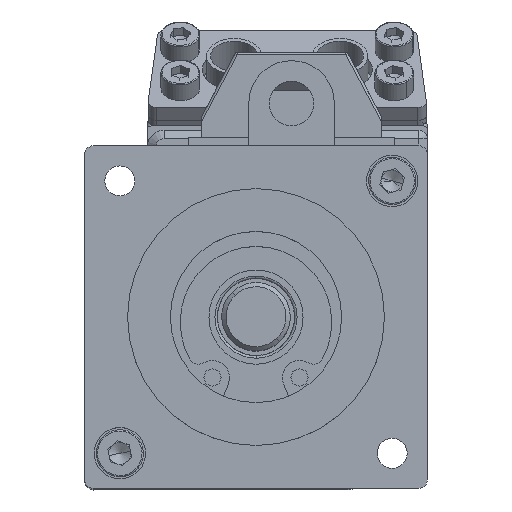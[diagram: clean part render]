
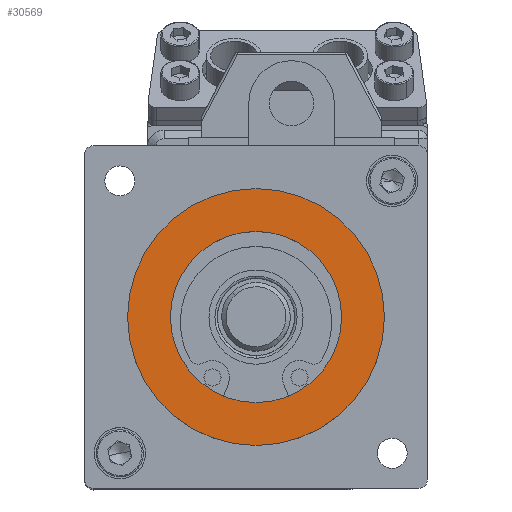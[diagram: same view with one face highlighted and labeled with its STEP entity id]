
A CAD part, top view. The second image highlights one B-rep face of the part: STEP entity #30569.
In plain terms, the highlighted planar face has unit normal (0, 0, 1).
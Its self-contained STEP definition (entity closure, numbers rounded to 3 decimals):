
#349 = CARTESIAN_POINT ( 'NONE',  ( 53.478, 20., 115.595 ) ) ;
#532 = CIRCLE ( 'NONE', #6462, 15. ) ;
#1125 = CARTESIAN_POINT ( 'NONE',  ( 68.478, 20., 115.595 ) ) ;
#1788 = ORIENTED_EDGE ( 'NONE', *, *, #10811, .F. ) ;
#2603 = EDGE_CURVE ( 'NONE', #11575, #7020, #18849, .T. ) ;
#3652 = DIRECTION ( 'NONE',  ( 1., 0., 0. ) ) ;
#3960 = CARTESIAN_POINT ( 'NONE',  ( 68.478, 20., 115.595 ) ) ;
#4344 = CARTESIAN_POINT ( 'NONE',  ( 68.478, 20., 115.595 ) ) ;
#6462 = AXIS2_PLACEMENT_3D ( 'NONE', #8737, #26392, #11252 ) ;
#6502 = DIRECTION ( 'NONE',  ( 1., 0., 0. ) ) ;
#6881 = DIRECTION ( 'NONE',  ( 1., 0., 0. ) ) ;
#7020 = VERTEX_POINT ( 'NONE', #349 ) ;
#8737 = CARTESIAN_POINT ( 'NONE',  ( 68.478, 20., 115.595 ) ) ;
#10578 = FACE_OUTER_BOUND ( 'NONE', #14385, .T. ) ;
#10670 = AXIS2_PLACEMENT_3D ( 'NONE', #1125, #18771, #3652 ) ;
#10811 = EDGE_CURVE ( 'NONE', #14538, #12490, #28940, .T. ) ;
#11252 = DIRECTION ( 'NONE',  ( 1., 0., 0. ) ) ;
#11265 = ORIENTED_EDGE ( 'NONE', *, *, #2603, .T. ) ;
#11543 = CARTESIAN_POINT ( 'NONE',  ( 58.478, 20., 115.595 ) ) ;
#11575 = VERTEX_POINT ( 'NONE', #30496 ) ;
#12490 = VERTEX_POINT ( 'NONE', #11543 ) ;
#12826 = ORIENTED_EDGE ( 'NONE', *, *, #23131, .T. ) ;
#14385 = EDGE_LOOP ( 'NONE', ( #12826, #11265 ) ) ;
#14538 = VERTEX_POINT ( 'NONE', #31566 ) ;
#15508 = EDGE_LOOP ( 'NONE', ( #30246, #1788 ) ) ;
#17252 = FACE_BOUND ( 'NONE', #15508, .T. ) ;
#17293 = AXIS2_PLACEMENT_3D ( 'NONE', #27834, #28315, #27726 ) ;
#18771 = DIRECTION ( 'NONE',  ( 0., 0., 1. ) ) ;
#18849 = CIRCLE ( 'NONE', #17293, 15. ) ;
#19352 = AXIS2_PLACEMENT_3D ( 'NONE', #3960, #21629, #6502 ) ;
#19515 = EDGE_CURVE ( 'NONE', #12490, #14538, #30401, .T. ) ;
#21629 = DIRECTION ( 'NONE',  ( 0., 0., 1. ) ) ;
#21934 = AXIS2_PLACEMENT_3D ( 'NONE', #4344, #22002, #6881 ) ;
#22002 = DIRECTION ( 'NONE',  ( 0., 0., 1. ) ) ;
#23131 = EDGE_CURVE ( 'NONE', #7020, #11575, #532, .T. ) ;
#26316 = PLANE ( 'NONE',  #10670 ) ;
#26392 = DIRECTION ( 'NONE',  ( 0., 0., 1. ) ) ;
#27726 = DIRECTION ( 'NONE',  ( 1., 0., 0. ) ) ;
#27834 = CARTESIAN_POINT ( 'NONE',  ( 68.478, 20., 115.595 ) ) ;
#28315 = DIRECTION ( 'NONE',  ( 0., 0., 1. ) ) ;
#28940 = CIRCLE ( 'NONE', #19352, 10. ) ;
#30246 = ORIENTED_EDGE ( 'NONE', *, *, #19515, .F. ) ;
#30401 = CIRCLE ( 'NONE', #21934, 10. ) ;
#30496 = CARTESIAN_POINT ( 'NONE',  ( 83.478, 20., 115.595 ) ) ;
#30569 = ADVANCED_FACE ( 'NONE', ( #17252, #10578 ), #26316, .T. ) ;
#31566 = CARTESIAN_POINT ( 'NONE',  ( 78.478, 20., 115.595 ) ) ;
